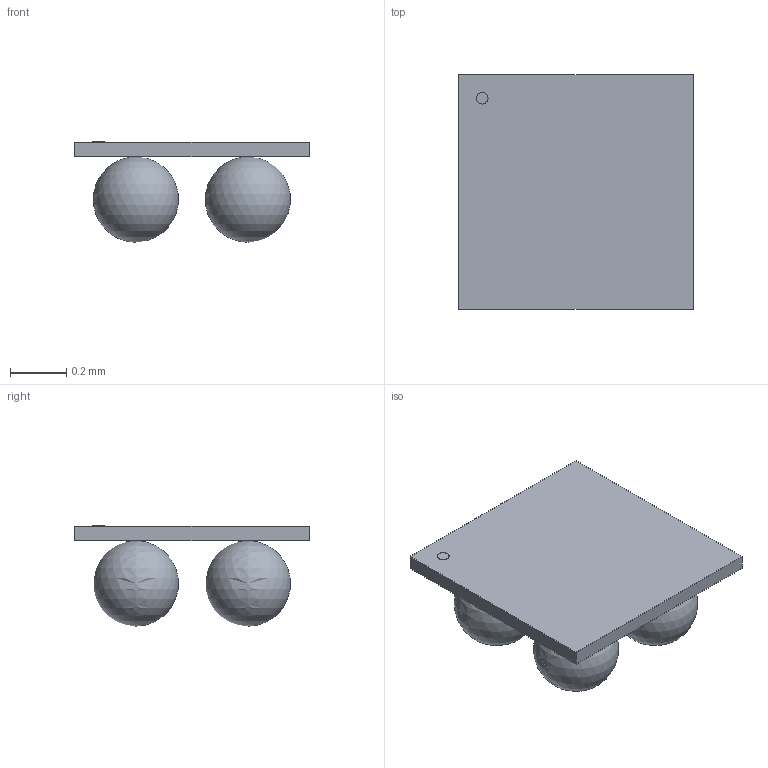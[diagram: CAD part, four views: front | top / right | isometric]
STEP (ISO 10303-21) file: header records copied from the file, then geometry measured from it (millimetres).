
FILE_DESCRIPTION(('STEP AP214'),'1');
FILE_NAME('WLCSP4_P8XP8_ONS','2025-03-26T09:20:46',(''),(''),'','','');
FILE_SCHEMA(('AUTOMOTIVE_DESIGN'));
Length unit declared in the file: millimetre
Products named in the file (1): product
Bounding box: 0.84 x 0.84 x 0.36 mm (x, y, z)
Volume: 0.2 mm3; surface area: 3.9 mm2
Topology: 10 solids, 10 shells, 17 faces, 39 edges, 26 vertices
Faces by surface type: sphere 8, plane 8, cylinder 1
Full cylindrical faces by diameter (mm): 0.042 x1
Entity records: 445 total; most frequent: DIRECTION 54, CARTESIAN_POINT 31, ORIENTED_EDGE 28, AXIS2_PLACEMENT_3D 21, PRESENTATION_STYLE_ASSIGNMENT 17, SURFACE_STYLE_USAGE 17, SURFACE_SIDE_STYLE 17, SURFACE_STYLE_FILL_AREA 17
